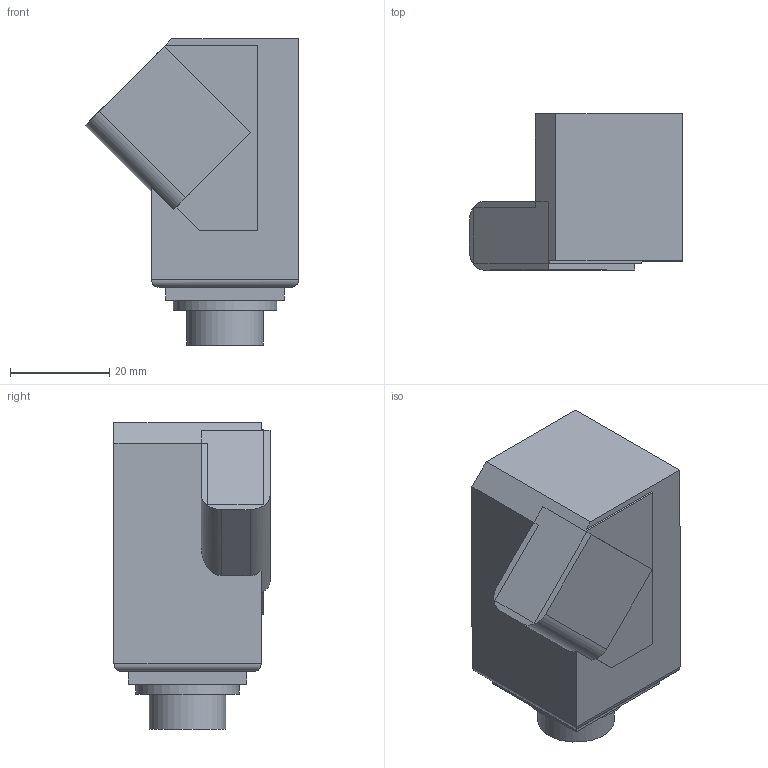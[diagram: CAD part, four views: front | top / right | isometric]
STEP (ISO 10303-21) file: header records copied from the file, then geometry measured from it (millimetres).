
FILE_DESCRIPTION(('FreeCAD Model'),'2;1');
FILE_NAME('Open CASCADE Shape Model','2025-05-22T18:39:12',(''),(''), 'Open CASCADE STEP processor 7.8','FreeCAD','Unknown');
FILE_SCHEMA(('AUTOMOTIVE_DESIGN { 1 0 10303 214 1 1 1 1 }'));
Length unit declared in the file: millimetre
Products named in the file (1): camera
Bounding box: 42.93 x 31.4 x 61.61 mm (x, y, z)
Volume: 50128 mm3; surface area: 8817.4 mm2
Topology: 1 solids, 1 shells, 34 faces, 84 edges, 55 vertices
Faces by surface type: plane 26, cylinder 8
Full cylindrical faces by diameter (mm): 15.4 x1, 20.8 x1
Entity records: 1019 total; most frequent: CARTESIAN_POINT 174, ORIENTED_EDGE 168, DIRECTION 167, EDGE_CURVE 84, LINE 71, VECTOR 71, VERTEX_POINT 55, AXIS2_PLACEMENT_3D 48
